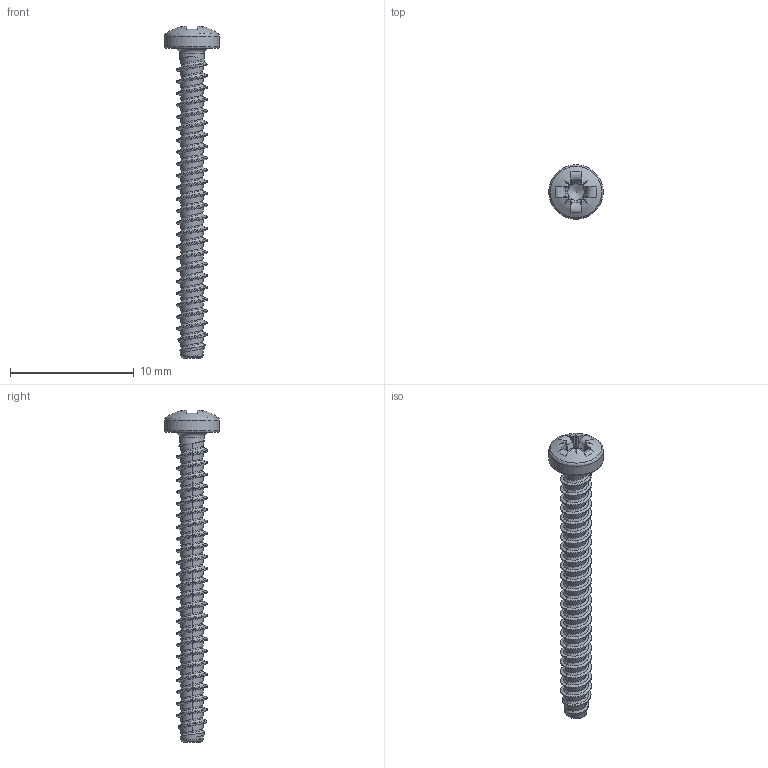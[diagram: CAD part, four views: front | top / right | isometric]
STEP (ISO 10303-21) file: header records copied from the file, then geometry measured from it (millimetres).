
FILE_DESCRIPTION(/* description */ (''),/* implementation_level */ '2;1');
FILE_NAME(/* name */ 'KN6032-STSplus-25x25-Z1.step',/* time_stamp */ '2017-10-10T15:51:30+02:00',/* author */ (''),/* organization */ (''),/* preprocessor_version */ 'ST-DEVELOPER v16',/* originating_system */ 'SIEMENS PLM Software NX 10.0',/* authorisation */ '');
FILE_SCHEMA (('AUTOMOTIVE_DESIGN { 1 0 10303 214 3 1 1 1 }'));
Length unit declared in the file: millimetre
Products named in the file (1): KN6032-STSplus-25x25-Z1
Bounding box: 4.4 x 4.4 x 26.81 mm (x, y, z)
Volume: 96 mm3; surface area: 279.5 mm2
Topology: 1 solids, 1 shells, 158 faces, 407 edges, 251 vertices
Faces by surface type: bspline 104, plane 26, cylinder 12, torus 8, cone 7, sphere 1
Full cylindrical faces by diameter (mm): 1.97 x1, 4.4 x1
Entity records: 11284 total; most frequent: CARTESIAN_POINT 8206, ORIENTED_EDGE 786, EDGE_CURVE 393, DIRECTION 344, VERTEX_POINT 246, B_SPLINE_CURVE_WITH_KNOTS 210, EDGE_LOOP 166, ADVANCED_FACE 158
